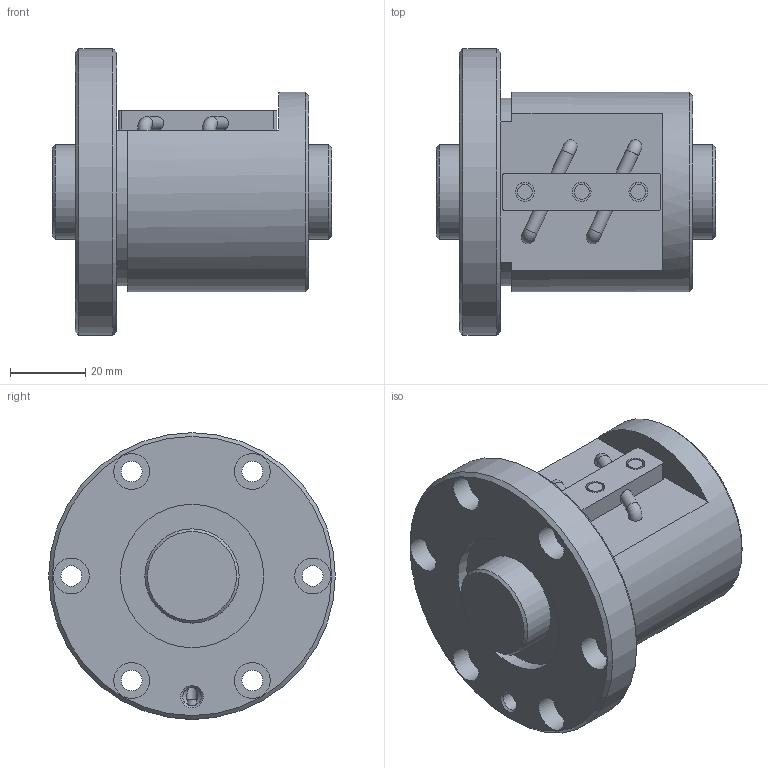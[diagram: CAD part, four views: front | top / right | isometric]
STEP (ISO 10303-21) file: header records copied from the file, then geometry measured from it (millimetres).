
FILE_DESCRIPTION(/* description */ ('STEP AP203'),/* implementation_level */ '2;1');
FILE_NAME(/* name */ 'BNF2506V-5RRG1+74LC0_000_rev',/* time_stamp */ '2024-08-06T07:29:24+02:00',/* author */ ('License CC BY-ND 4.0'),/* organization */ ('CADENAS'),/* preprocessor_version */ 'ST-DEVELOPER v19.3',/* originating_system */ 'PARTsolutions',/* authorisation */ ' ');
FILE_SCHEMA (('CONFIG_CONTROL_DESIGN'));
Length unit declared in the file: millimetre
Products named in the file (3): BNF2506V-5RRG1+74LC0_000_rev; BNF 2506-5RR000 Shaft; BNF 2506-5RR Nut
Assembly tree (2 placements, depth 2):
  BNF2506V-5RRG1+74LC0_000_rev
    BNF 2506-5RR000 Shaft
    BNF 2506-5RR Nut
Bounding box: 74 x 76 x 76 mm (x, y, z)
Volume: 149732.2 mm3; surface area: 33960.4 mm2
Topology: 2 solids, 2 shells, 78 faces, 172 edges, 113 vertices
Faces by surface type: cylinder 37, plane 29, cone 8, torus 4
Full cylindrical faces by diameter (mm): 2.75 x2, 3.531 x4, 4 x3, 4.917 x1, 5 x3, 5.5 x6, 9.5 x6, 25 x2, 38 x2, 53 x1, 76 x1
Entity records: 1991 total; most frequent: DIRECTION 352, CARTESIAN_POINT 341, ORIENTED_EDGE 230, AXIS2_PLACEMENT_3D 164, EDGE_LOOP 160, FACE_BOUND 160, EDGE_CURVE 115, VERTEX_POINT 99
